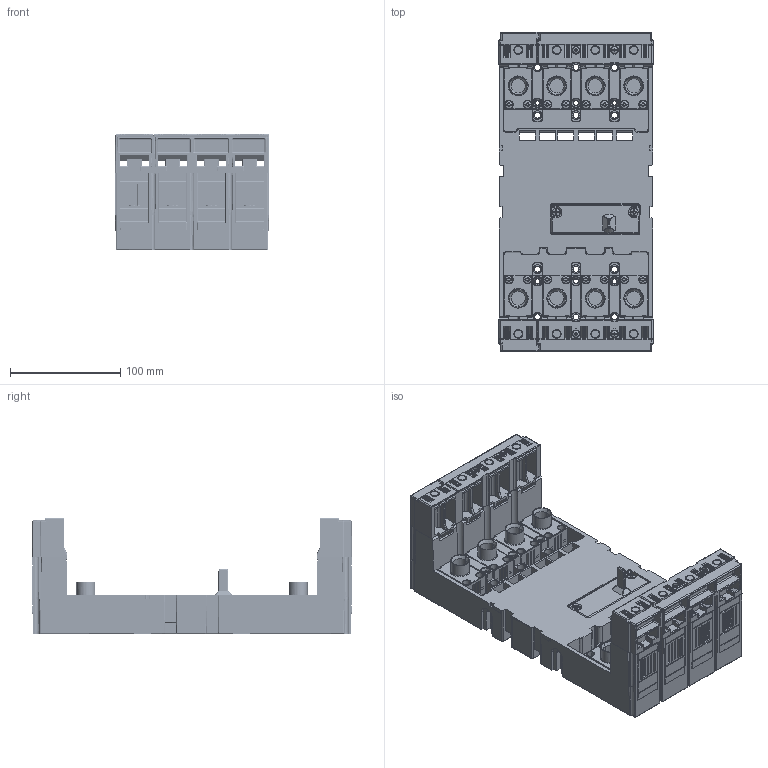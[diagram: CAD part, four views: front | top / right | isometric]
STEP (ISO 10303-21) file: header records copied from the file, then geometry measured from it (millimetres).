
FILE_DESCRIPTION (( 'STEP AP214' ), '1' );
FILE_NAME ('ZO-BD-0250-400_zj_03.step', '2013-08-19T07:20:36', ( '' ), ( '' ), 'SwSTEP 2.0', 'SolidWorks 2011', '' );
FILE_SCHEMA (( 'AUTOMOTIVE_DESIGN' ));
Length unit declared in the file: millimetre
Products named in the file (1): ZO-BD-0250-400_zj_03
Bounding box: 140 x 290 x 105 mm (x, y, z)
Volume: 1284044.3 mm3; surface area: 460102.2 mm2
Topology: 11 solids, 11 shells, 6426 faces, 17438 edges, 10993 vertices
Faces by surface type: plane 3720, cylinder 1982, bspline 252, sphere 204, cone 196, torus 72
Entity records: 292737 total; most frequent: CARTESIAN_POINT 66243, ORIENTED_EDGE 34336, DIRECTION 29668, EDGE_CURVE 17168, LINE 11364, VECTOR 11364, VERTEX_POINT 10986, AXIS2_PLACEMENT_3D 9152
